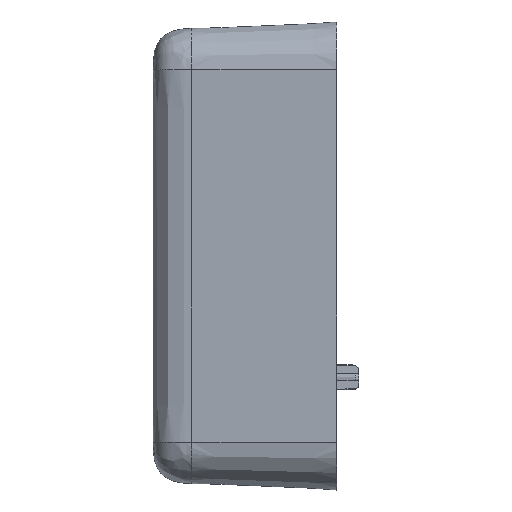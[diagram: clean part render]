
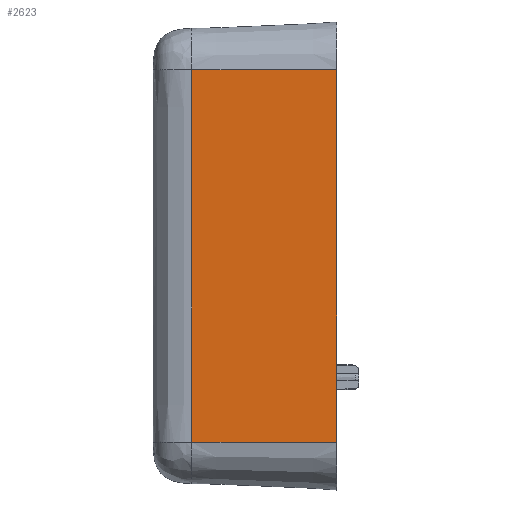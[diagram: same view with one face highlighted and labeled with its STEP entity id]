
A CAD part, top view. The second image highlights one B-rep face of the part: STEP entity #2623.
In plain terms, the highlighted planar face has unit normal (-0.044, 0, 0.999).
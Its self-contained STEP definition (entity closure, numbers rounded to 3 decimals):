
#2=DIRECTION('',(0.,1.,0.));
#3=VECTOR('',#2,50.719);
#4=CARTESIAN_POINT('',(-226.204,76.185,529.278));
#5=LINE('',#4,#3);
#76=DIRECTION('',(-0.999,0.,-0.044));
#77=VECTOR('',#76,19.759);
#78=CARTESIAN_POINT('',(-226.204,126.904,529.278));
#79=LINE('',#78,#77);
#80=DIRECTION('',(-0.999,0.,-0.044));
#81=VECTOR('',#80,19.759);
#82=CARTESIAN_POINT('',(-226.204,76.185,529.278));
#83=LINE('',#82,#81);
#96=DIRECTION('',(0.,-1.,0.));
#97=VECTOR('',#96,50.719);
#98=CARTESIAN_POINT('',(-245.944,126.904,528.416));
#99=LINE('',#98,#97);
#337=CARTESIAN_POINT('',(-245.944,126.904,528.416));
#544=CARTESIAN_POINT('',(-245.944,76.185,528.416));
#2301=VERTEX_POINT('',#544);
#2305=CARTESIAN_POINT('',(-226.204,76.185,529.278));
#2306=VERTEX_POINT('',#2305);
#2440=VERTEX_POINT('',#337);
#2444=CARTESIAN_POINT('',(-226.204,126.904,529.278));
#2445=VERTEX_POINT('',#2444);
#2609=CARTESIAN_POINT('',(-226.204,114.404,529.278));
#2610=DIRECTION('',(-0.044,0.,0.999));
#2611=DIRECTION('',(0.,1.,0.));
#2612=AXIS2_PLACEMENT_3D('',#2609,#2610,#2611);
#2613=PLANE('',#2612);
#2615=ORIENTED_EDGE('',*,*,#2614,.F.);
#2617=ORIENTED_EDGE('',*,*,#2616,.F.);
#2618=ORIENTED_EDGE('',*,*,#2510,.F.);
#2620=ORIENTED_EDGE('',*,*,#2619,.T.);
#2621=EDGE_LOOP('',(#2615,#2617,#2618,#2620));
#2622=FACE_OUTER_BOUND('',#2621,.F.);
#2623=ADVANCED_FACE('',(#2622),#2613,.T.);
#2510=EDGE_CURVE('',#2306,#2445,#5,.T.);
#2614=EDGE_CURVE('',#2440,#2301,#99,.T.);
#2616=EDGE_CURVE('',#2445,#2440,#79,.T.);
#2619=EDGE_CURVE('',#2306,#2301,#83,.T.);
